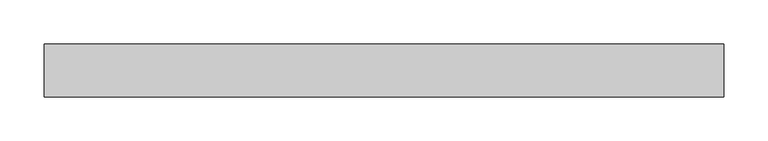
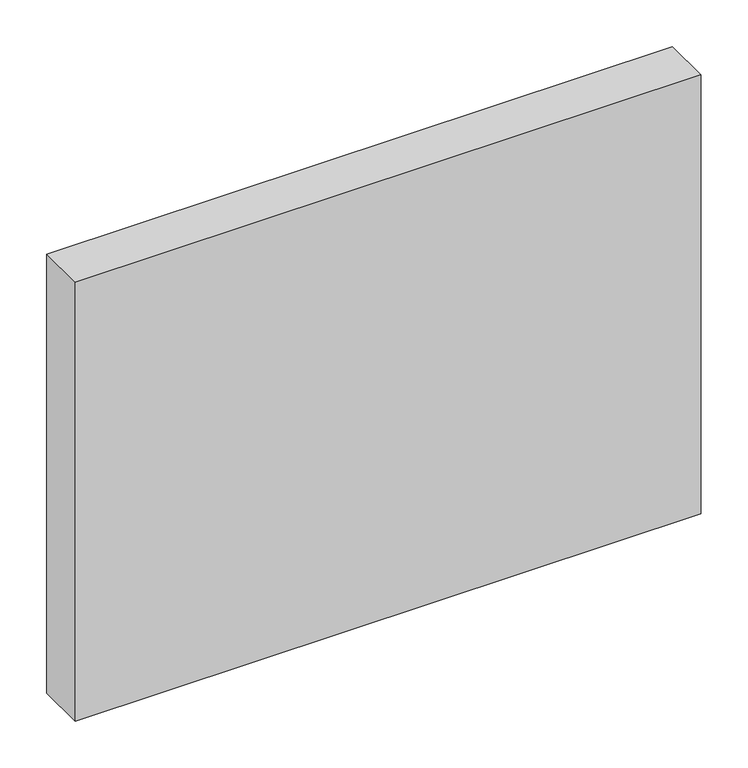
"""IFC4 building model written with IfcOpenShell, lengths in millimetres: plate geometry, Системная панель : Алюкобонд серый."""

from ifc_helpers import new_model, si_unit, origin, origin_with_axes, place, context, project, spatial, polyline, outline, extrude, source, transform, mapped, element, save


def plate_b9b2a471(model_context):
    return source(origin(), model_context, "Body", "SweptSolid", [
        extrude(outline(polyline([(384.5363486, -10.5), (-384.5363486, -10.5), (-384.5363486, 49.5), (384.5363486, 49.5), (384.5363486, -10.5)])), origin_with_axes(), (0.0, 0.0, 1.0), 570.0),
    ])


if __name__ == "__main__":
    model = new_model("IFC4")
    model_context = context("Model", 3, world=origin())
    ifc_project = project(units=[si_unit("LENGTHUNIT", "METRE", prefix="MILLI")], contexts=[model_context])
    site = spatial("IfcSite", under=ifc_project)
    building = spatial("IfcBuilding", under=site)
    placement = place(None, origin())
    plate_shape = plate_b9b2a471(model_context)
    element("IfcPlate", 1, ObjectType="Системная панель : Алюкобонд серый", at=placement, inside=building, context=model_context, shape_type="MappedRepresentation", body=[
        mapped(plate_shape, transform((0.0, 0.0, 0.0), x_axis=(1.0, 0.0, 0.0), y_axis=(0.0, 1.0, 0.0), z_axis=(0.0, 0.0, 1.0))),
    ])
    save(model, "model.ifc")
